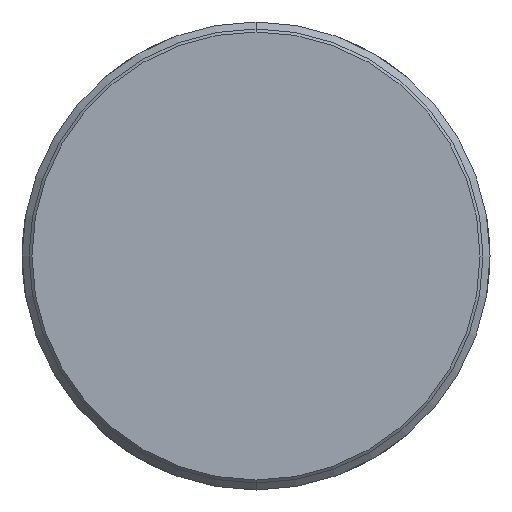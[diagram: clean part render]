
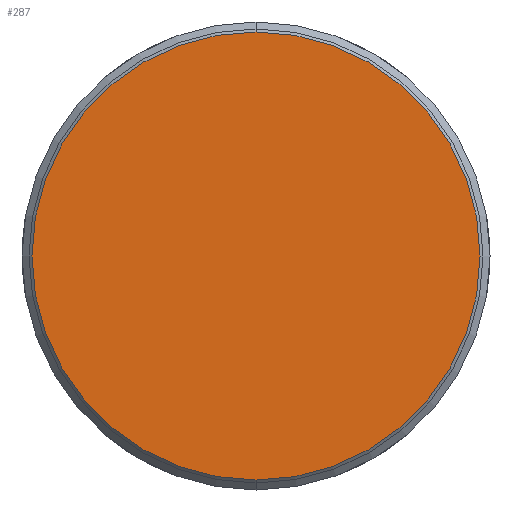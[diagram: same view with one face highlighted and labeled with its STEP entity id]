
A CAD part, front view. The second image highlights one B-rep face of the part: STEP entity #287.
In plain terms, the highlighted planar face has unit normal (0, -1, 0).
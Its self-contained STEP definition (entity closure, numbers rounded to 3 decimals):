
#262=CARTESIAN_POINT('',(0.0,-87.0,-38.3));
#263=VERTEX_POINT('',#262);
#264=CARTESIAN_POINT('',(0.0,-87.0,38.3));
#265=VERTEX_POINT('',#264);
#266=CARTESIAN_POINT('',(0.0,-87.0,0.0));
#267=DIRECTION('',(0.0,-1.0,0.0));
#268=DIRECTION('',(0.0,0.0,-1.0));
#269=AXIS2_PLACEMENT_3D('',#266,#267,#268);
#270=CIRCLE('',#269,38.3);
#271=EDGE_CURVE('no 2156',#263,#265,#270,.T.);
#272=ORIENTED_EDGE('',*,*,#271,.T.);
#273=CARTESIAN_POINT('',(0.0,-87.0,0.0));
#274=DIRECTION('',(0.0,-1.0,0.0));
#275=DIRECTION('',(0.0,0.0,-1.0));
#276=AXIS2_PLACEMENT_3D('',#273,#274,#275);
#277=CIRCLE('',#276,38.3);
#278=EDGE_CURVE('no 2160',#265,#263,#277,.T.);
#279=ORIENTED_EDGE('',*,*,#278,.T.);
#280=EDGE_LOOP('',(#272,#279));
#281=FACE_OUTER_BOUND('',#280,.T.);
#282=CARTESIAN_POINT('',(0.0,-87.0,0.0));
#283=DIRECTION('',(0.0,-1.0,0.0));
#284=DIRECTION('',(0.0,0.0,-1.0));
#285=AXIS2_PLACEMENT_3D('',#282,#283,#284);
#286=PLANE('',#285);
#287=ADVANCED_FACE('no 2147',(#281),#286,.T.);
